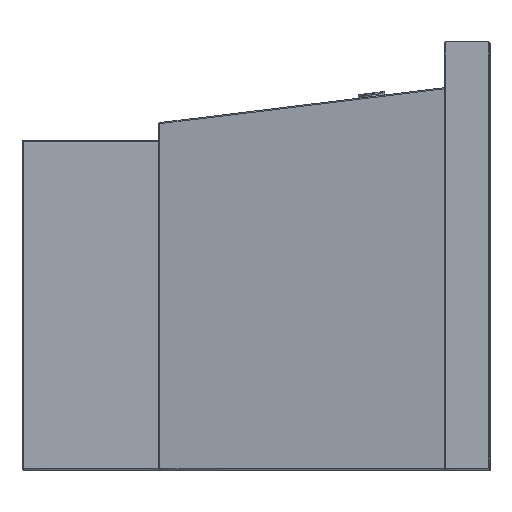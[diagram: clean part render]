
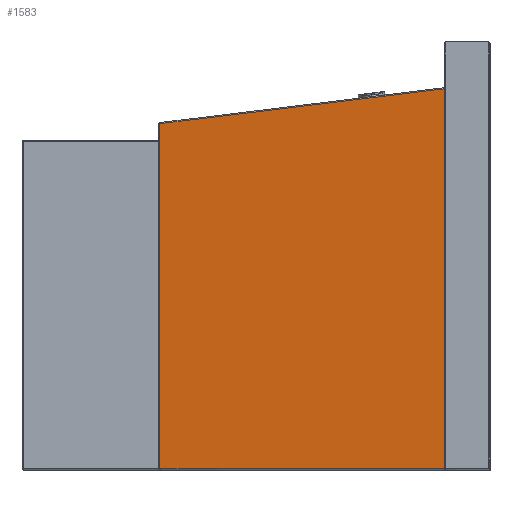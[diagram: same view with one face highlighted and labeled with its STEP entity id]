
A CAD part, left-side view. The second image highlights one B-rep face of the part: STEP entity #1583.
In plain terms, the highlighted planar face has unit normal (-0.993, 0.122, 0).
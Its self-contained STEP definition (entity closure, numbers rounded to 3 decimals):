
#250=DIRECTION('',(0.,0.,1.));
#251=VECTOR('',#250,666.015);
#252=CARTESIAN_POINT('',(-419.5,80.,-373.));
#253=LINE('',#252,#251);
#364=DIRECTION('',(0.,0.,1.));
#365=VECTOR('',#364,604.838);
#366=CARTESIAN_POINT('',(-358.323,578.244,-373.));
#367=LINE('',#366,#365);
#368=DIRECTION('',(-0.121,-0.985,0.121));
#369=VECTOR('',#368,505.7);
#370=CARTESIAN_POINT('',(-358.323,578.244,231.838));
#371=LINE('',#370,#369);
#372=DIRECTION('',(-0.122,-0.993,0.));
#373=VECTOR('',#372,501.985);
#374=CARTESIAN_POINT('',(-358.323,578.244,-373.));
#375=LINE('',#374,#373);
#961=CARTESIAN_POINT('',(-358.323,578.244,-373.));
#962=CARTESIAN_POINT('',(-358.323,578.244,231.838));
#963=VERTEX_POINT('',#961);
#964=VERTEX_POINT('',#962);
#967=CARTESIAN_POINT('',(-419.5,80.,-373.));
#968=VERTEX_POINT('',#967);
#1013=CARTESIAN_POINT('',(-419.5,80.,293.015));
#1014=VERTEX_POINT('',#1013);
#1570=CARTESIAN_POINT('',(-419.5,80.,-392.536));
#1571=DIRECTION('',(-0.993,0.122,0.));
#1572=DIRECTION('',(0.,0.,1.));
#1573=AXIS2_PLACEMENT_3D('',#1570,#1571,#1572);
#1574=PLANE('',#1573);
#1576=ORIENTED_EDGE('',*,*,#1575,.T.);
#1577=ORIENTED_EDGE('',*,*,#1555,.T.);
#1578=ORIENTED_EDGE('',*,*,#1351,.F.);
#1580=ORIENTED_EDGE('',*,*,#1579,.F.);
#1581=EDGE_LOOP('',(#1576,#1577,#1578,#1580));
#1582=FACE_OUTER_BOUND('',#1581,.F.);
#1351=EDGE_CURVE('',#968,#1014,#253,.T.);
#1555=EDGE_CURVE('',#964,#1014,#371,.T.);
#1575=EDGE_CURVE('',#963,#964,#367,.T.);
#1579=EDGE_CURVE('',#963,#968,#375,.T.);
#1583=ADVANCED_FACE('',(#1582),#1574,.T.);
